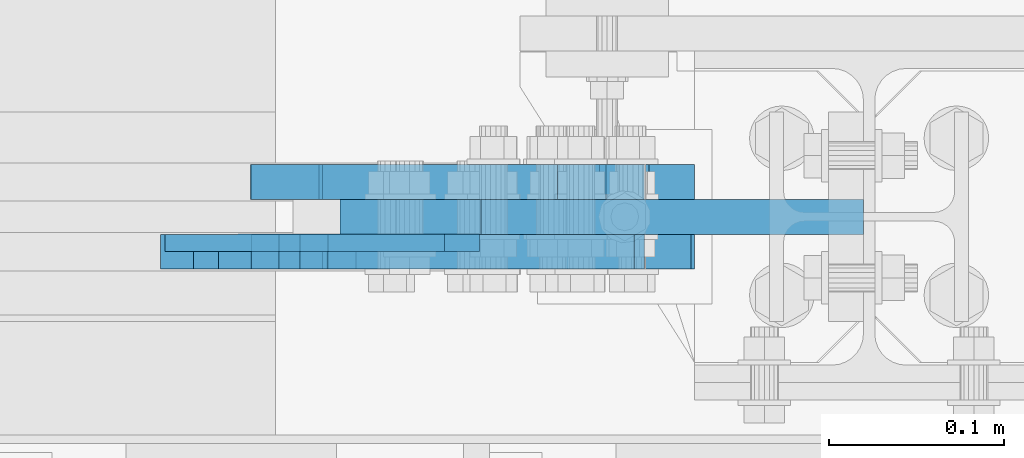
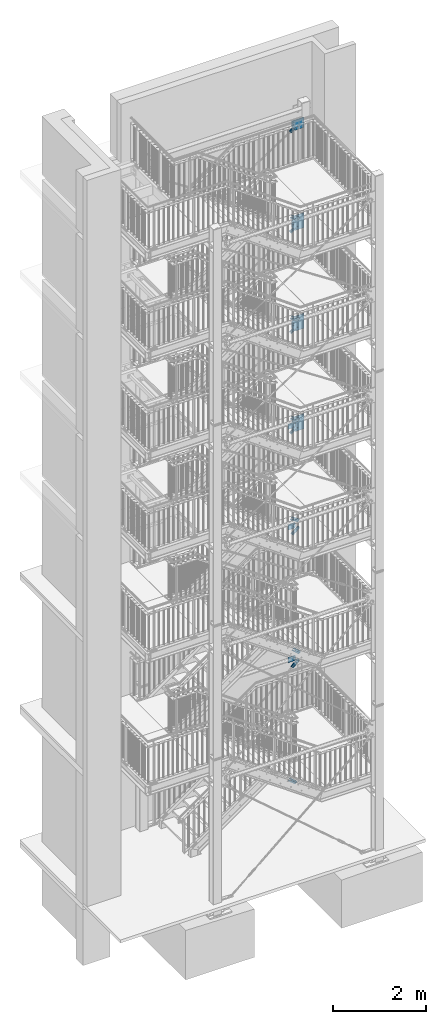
# One storey, part 214 of 831: 19 plates, 59 openings.
"""IFC2X3 building model written with IfcOpenShell, lengths in millimetres."""

from ifc_helpers import new_model, entity, si_unit, converted_unit, frame, frame_2d, origin, origin_with_axes, place, context, project, spatial, polyline, circle, outline, extrude, material, layer, layer_set, element, save


model = new_model("IFC2X3")

# Units and contexts
model_context = context("Model", 3, precision=1e-09, world=origin_with_axes())
ifc_project = project(units=[si_unit("LENGTHUNIT", "METRE", prefix="MILLI"), si_unit("AREAUNIT", "SQUARE_METRE"), si_unit("VOLUMEUNIT", "CUBIC_METRE"), converted_unit("PLANEANGLEUNIT", "DEGREE", entity("IfcPlaneAngleMeasure", 0.01745329), si_unit("PLANEANGLEUNIT", "RADIAN"), dimensions=[0, 0, 0, 0, 0, 0, 0])], contexts=[model_context])

# Site, building, storey
site_placement = place(None, origin_with_axes())
site = spatial("IfcSite", under=ifc_project, at=site_placement, Name="Site", CompositionType="ELEMENT")
building_placement = place(site_placement, origin_with_axes())
building = spatial("IfcBuilding", under=site, at=building_placement, Name="Struktur 1", CompositionType="ELEMENT")
storey_placement = place(building_placement, origin_with_axes())
storey = spatial("IfcBuildingStorey", under=building, at=storey_placement, Name="Default Storey", CompositionType="ELEMENT", Elevation=0.0)

# Plate, openings
ifc_material = material(Name="S235JR")
ifc_layer_1 = layer(ifc_material, 20.0)
ifc_layer_set_1 = layer_set([ifc_layer_1], Name="S235JR")
plate_1_placement = place(None, frame((8863.463402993, 7526.736971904, 9810.428402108), z_axis=(0.0, 1.0, 0.0), x_axis=(0.0, 0.0, -1.0)))
plate_1 = element("IfcPlate", 1, at=plate_1_placement, inside=storey, material=ifc_layer_set_1, Name="-", ObjectType="-", context=model_context, shape_type="SweptSolid", body=[
    extrude(outline(polyline([(0.0, 0.0), (386.856811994, 0.0), (386.856811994, 219.202103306), (263.428405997, 300.0), (123.428405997, 300.0), (0.0, 219.202103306), (0.0, 0.0)])), origin_with_axes(), (0.0, 0.0, -1.0), 20.0),
])
opening_1_placement = place(plate_1_placement, frame((193.428405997, 260.0, 0.5), z_axis=(0.0, 0.0, -1.0), x_axis=(0.0, -1.0, 0.0)))
element("IfcOpeningElement", 2, at=opening_1_placement, cuts=plate_1, ObjectType="Opening", context=model_context, shape_type="SweptSolid", body=[
    extrude(circle(Radius=9.001, at=frame_2d((0.0, 30.0), x_axis=(1.0, 0.0))), origin(), (0.0, 0.0, 1.0), 21.0),
])
opening_2_placement = place(plate_1_placement, frame((193.428405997, 260.0, 0.5), z_axis=(0.0, 0.0, -1.0), x_axis=(0.0, -1.0, 0.0)))
element("IfcOpeningElement", 3, at=opening_2_placement, cuts=plate_1, ObjectType="Opening", context=model_context, shape_type="SweptSolid", body=[
    extrude(circle(Radius=9.001, at=frame_2d((0.0, -30.0), x_axis=(1.0, 0.0))), origin(), (0.0, 0.0, 1.0), 21.0),
])
opening_3_placement = place(plate_1_placement, frame((318.119575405, 186.723853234, 0.5), z_axis=(0.0, 0.0, -1.0), x_axis=(0.548722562, 0.836004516, 0.0)))
element("IfcOpeningElement", 4, at=opening_3_placement, cuts=plate_1, ObjectType="Opening", context=model_context, shape_type="SweptSolid", body=[
    extrude(circle(Radius=9.001, at=frame_2d((30.0, 0.0), x_axis=(1.0, 0.0))), origin(), (0.0, 0.0, 1.0), 21.0),
])
opening_4_placement = place(plate_1_placement, frame((318.119575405, 186.723853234, 0.5), z_axis=(0.0, 0.0, -1.0), x_axis=(0.548722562, 0.836004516, 0.0)))
element("IfcOpeningElement", 5, at=opening_4_placement, cuts=plate_1, ObjectType="Opening", context=model_context, shape_type="SweptSolid", body=[
    extrude(circle(Radius=9.001, at=frame_2d((-30.0, 0.0), x_axis=(1.0, 0.0))), origin(), (0.0, 0.0, 1.0), 21.0),
])
opening_5_placement = place(plate_1_placement, frame((57.480828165, 204.267999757, 0.5), z_axis=(0.0, 0.0, 1.0), x_axis=(1.0, 0.0, 0.0)))
element("IfcOpeningElement", 6, at=opening_5_placement, cuts=plate_1, ObjectType="Opening", context=model_context, shape_type="SweptSolid", body=[
    extrude(circle(Radius=9.001, at=frame_2d((-4.932467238, 7.529194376), x_axis=(1.0, 0.0))), origin(), (0.0, 0.0, -1.0), 21.0),
])
opening_6_placement = place(plate_1_placement, frame((90.360289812, 154.078947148, 0.5), z_axis=(0.0, 0.0, 1.0), x_axis=(1.0, 0.0, 0.0)))
element("IfcOpeningElement", 7, at=opening_6_placement, cuts=plate_1, ObjectType="Opening", context=model_context, shape_type="SweptSolid", body=[
    extrude(circle(Radius=9.001, at=frame_2d((-4.932467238, 7.529194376), x_axis=(1.0, 0.0))), origin(), (0.0, 0.0, -1.0), 21.0),
])

plate_2_placement = place(None, frame((8863.463402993, 7526.736971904, 12437.428402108), z_axis=(0.0, 1.0, 0.0), x_axis=(0.0, 0.0, -1.0)))
plate_2 = element("IfcPlate", 8, at=plate_2_placement, inside=storey, material=ifc_layer_set_1, Name="-", ObjectType="-", context=model_context, shape_type="SweptSolid", body=[
    extrude(outline(polyline([(0.0, 0.0), (386.856811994, 0.0), (386.856811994, 219.202103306), (263.428405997, 300.0), (123.428405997, 300.0), (0.0, 219.202103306), (0.0, 0.0)])), origin_with_axes(), (0.0, 0.0, -1.0), 20.0),
])
opening_7_placement = place(plate_2_placement, frame((193.428405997, 260.000000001, 0.5), z_axis=(0.0, 0.0, -1.0), x_axis=(0.0, -1.0, 0.0)))
element("IfcOpeningElement", 9, at=opening_7_placement, cuts=plate_2, ObjectType="Opening", context=model_context, shape_type="SweptSolid", body=[
    extrude(circle(Radius=9.001, at=frame_2d((0.0, 30.0), x_axis=(1.0, 0.0))), origin(), (0.0, 0.0, 1.0), 21.0),
])
opening_8_placement = place(plate_2_placement, frame((193.428405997, 260.000000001, 0.5), z_axis=(0.0, 0.0, -1.0), x_axis=(0.0, -1.0, 0.0)))
element("IfcOpeningElement", 10, at=opening_8_placement, cuts=plate_2, ObjectType="Opening", context=model_context, shape_type="SweptSolid", body=[
    extrude(circle(Radius=9.001, at=frame_2d((0.0, -30.0), x_axis=(1.0, 0.0))), origin(), (0.0, 0.0, 1.0), 21.0),
])
opening_9_placement = place(plate_2_placement, frame((57.191453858, 204.078340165, 0.5), z_axis=(0.0, 0.0, 1.0), x_axis=(1.0, 0.0, 0.0)))
element("IfcOpeningElement", 11, at=opening_9_placement, cuts=plate_2, ObjectType="Opening", context=model_context, shape_type="SweptSolid", body=[
    extrude(circle(Radius=9.001, at=frame_2d((-4.942962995, 7.522308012), x_axis=(1.0, 0.0))), origin(), (0.0, 0.0, -1.0), 21.0),
])
opening_10_placement = place(plate_2_placement, frame((90.140879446, 153.935191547, 0.5), z_axis=(0.0, 0.0, 1.0), x_axis=(1.0, 0.0, 0.0)))
element("IfcOpeningElement", 12, at=opening_10_placement, cuts=plate_2, ObjectType="Opening", context=model_context, shape_type="SweptSolid", body=[
    extrude(circle(Radius=9.001, at=frame_2d((-4.942962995, 7.522308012), x_axis=(1.0, 0.0))), origin(), (0.0, 0.0, -1.0), 21.0),
])
opening_11_placement = place(plate_2_placement, frame((317.95335929, 186.83257031, 0.5), z_axis=(0.0, 0.0, -1.0), x_axis=(0.54798027, 0.836491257, 0.0)))
element("IfcOpeningElement", 13, at=opening_11_placement, cuts=plate_2, ObjectType="Opening", context=model_context, shape_type="SweptSolid", body=[
    extrude(circle(Radius=9.001, at=frame_2d((30.0, 0.0), x_axis=(1.0, 0.0))), origin(), (0.0, 0.0, 1.0), 21.0),
])
opening_12_placement = place(plate_2_placement, frame((317.95335929, 186.83257031, 0.5), z_axis=(0.0, 0.0, -1.0), x_axis=(0.54798027, 0.836491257, 0.0)))
element("IfcOpeningElement", 14, at=opening_12_placement, cuts=plate_2, ObjectType="Opening", context=model_context, shape_type="SweptSolid", body=[
    extrude(circle(Radius=9.001, at=frame_2d((-30.0, 0.0), x_axis=(1.0, 0.0))), origin(), (0.0, 0.0, 1.0), 21.0),
])

plate_3_placement = place(None, frame((8863.463402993, 7526.736971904, 15072.428402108), z_axis=(0.0, 1.0, 0.0), x_axis=(0.0, 0.0, -1.0)))
plate_3 = element("IfcPlate", 15, at=plate_3_placement, inside=storey, material=ifc_layer_set_1, Name="-", ObjectType="-", context=model_context, shape_type="SweptSolid", body=[
    extrude(outline(polyline([(0.0, 0.0), (386.856811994, 0.0), (386.856811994, 219.202103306), (263.428405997, 300.0), (123.428405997, 300.0), (0.0, 219.202103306), (0.0, 0.0)])), origin_with_axes(), (0.0, 0.0, -1.0), 20.0),
])
opening_13_placement = place(plate_3_placement, frame((193.428405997, 260.0, 0.5), z_axis=(0.0, 0.0, -1.0), x_axis=(0.0, -1.0, 0.0)))
element("IfcOpeningElement", 16, at=opening_13_placement, cuts=plate_3, ObjectType="Opening", context=model_context, shape_type="SweptSolid", body=[
    extrude(circle(Radius=9.001, at=frame_2d((0.0, 30.0), x_axis=(1.0, 0.0))), origin(), (0.0, 0.0, 1.0), 21.0),
])
opening_14_placement = place(plate_3_placement, frame((193.428405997, 260.0, 0.5), z_axis=(0.0, 0.0, -1.0), x_axis=(0.0, -1.0, 0.0)))
element("IfcOpeningElement", 17, at=opening_14_placement, cuts=plate_3, ObjectType="Opening", context=model_context, shape_type="SweptSolid", body=[
    extrude(circle(Radius=9.001, at=frame_2d((0.0, -30.0), x_axis=(1.0, 0.0))), origin(), (0.0, 0.0, 1.0), 21.0),
])
opening_15_placement = place(plate_3_placement, frame((57.734426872, 204.434295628, 0.5), z_axis=(0.0, 0.0, 1.0), x_axis=(1.0, 0.0, 0.0)))
element("IfcOpeningElement", 18, at=opening_15_placement, cuts=plate_3, ObjectType="Opening", context=model_context, shape_type="SweptSolid", body=[
    extrude(circle(Radius=9.001, at=frame_2d((-4.923259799, 7.535218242), x_axis=(1.0, 0.0))), origin(), (0.0, 0.0, -1.0), 21.0),
])
opening_16_placement = place(plate_3_placement, frame((90.552512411, 154.205088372, 0.5), z_axis=(0.0, 0.0, 1.0), x_axis=(1.0, 0.0, 0.0)))
element("IfcOpeningElement", 19, at=opening_16_placement, cuts=plate_3, ObjectType="Opening", context=model_context, shape_type="SweptSolid", body=[
    extrude(circle(Radius=9.001, at=frame_2d((-4.923259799, 7.535218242), x_axis=(1.0, 0.0))), origin(), (0.0, 0.0, -1.0), 21.0),
])
opening_17_placement = place(plate_3_placement, frame((318.218924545, 186.658910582, 0.5), z_axis=(0.0, 0.0, -1.0), x_axis=(0.549157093, 0.835719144, 0.0)))
element("IfcOpeningElement", 20, at=opening_17_placement, cuts=plate_3, ObjectType="Opening", context=model_context, shape_type="SweptSolid", body=[
    extrude(circle(Radius=9.001, at=frame_2d((30.0, 0.0), x_axis=(1.0, 0.0))), origin(), (0.0, 0.0, 1.0), 21.0),
])
opening_18_placement = place(plate_3_placement, frame((318.218924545, 186.658910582, 0.5), z_axis=(0.0, 0.0, -1.0), x_axis=(0.549157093, 0.835719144, 0.0)))
element("IfcOpeningElement", 21, at=opening_18_placement, cuts=plate_3, ObjectType="Opening", context=model_context, shape_type="SweptSolid", body=[
    extrude(circle(Radius=9.001, at=frame_2d((-30.0, 0.0), x_axis=(1.0, 0.0))), origin(), (0.0, 0.0, 1.0), 21.0),
])

plate_4_placement = place(None, frame((8563.463402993, 7526.736971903, 17582.999996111), z_axis=(0.0, 1.0, 0.0), x_axis=(1.0, 0.0, 0.0)))
plate_4 = element("IfcPlate", 22, at=plate_4_placement, inside=storey, material=ifc_layer_set_1, Name="-", ObjectType="-", context=model_context, shape_type="SweptSolid", body=[
    extrude(outline(polyline([(0.0, -110.000000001), (300.0, -110.000000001), (300.0, 277.428405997), (80.797896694, 277.428405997), (0.0, 154.0), (0.0, -110.000000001)])), origin_with_axes(), (0.0, 0.0, -1.0), 20.0),
])
opening_19_placement = place(plate_4_placement, frame((63.904513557, -490.388845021, 0.1), z_axis=(0.0, 0.0, 1.0), x_axis=(0.790386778, 0.612608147, 0.0)))
element("IfcOpeningElement", 23, at=opening_19_placement, cuts=plate_4, ObjectType="Opening", context=model_context, shape_type="SweptSolid", body=[
    extrude(outline(polyline([(0.0, 0.0), (816.820415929, 0.0), (166.904816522, 503.732605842), (0.0, 0.0)])), origin(), (0.0, 0.0, -1.0), 20.2),
])
opening_20_placement = place(plate_4_placement, frame((40.0, 84.0, 0.5), z_axis=(0.0, 0.0, -1.0), x_axis=(1.0, 0.0, 0.0)))
element("IfcOpeningElement", 24, at=opening_20_placement, cuts=plate_4, ObjectType="Opening", context=model_context, shape_type="SweptSolid", body=[
    extrude(circle(Radius=9.001, at=frame_2d((0.0, 30.0), x_axis=(1.0, 0.0))), origin(), (0.0, 0.0, 1.0), 21.0),
])
opening_21_placement = place(plate_4_placement, frame((40.0, 84.0, 0.5), z_axis=(0.0, 0.0, -1.0), x_axis=(1.0, 0.0, 0.0)))
element("IfcOpeningElement", 25, at=opening_21_placement, cuts=plate_4, ObjectType="Opening", context=model_context, shape_type="SweptSolid", body=[
    extrude(circle(Radius=9.001, at=frame_2d((0.0, -30.0), x_axis=(1.0, 0.0))), origin(), (0.0, 0.0, 1.0), 21.0),
])
opening_22_placement = place(plate_4_placement, frame((113.015549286, 208.292833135, 0.5), z_axis=(0.0, 0.0, -1.0), x_axis=(-0.837153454, 0.546968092, 0.0)))
element("IfcOpeningElement", 26, at=opening_22_placement, cuts=plate_4, ObjectType="Opening", context=model_context, shape_type="SweptSolid", body=[
    extrude(circle(Radius=9.001, at=frame_2d((30.0, 0.0), x_axis=(1.0, 0.0))), origin(), (0.0, 0.0, 1.0), 21.0),
])
opening_23_placement = place(plate_4_placement, frame((113.015549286, 208.292833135, 0.5), z_axis=(0.0, 0.0, -1.0), x_axis=(-0.837153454, 0.546968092, 0.0)))
element("IfcOpeningElement", 27, at=opening_23_placement, cuts=plate_4, ObjectType="Opening", context=model_context, shape_type="SweptSolid", body=[
    extrude(circle(Radius=9.001, at=frame_2d((-30.0, 0.0), x_axis=(1.0, 0.0))), origin(), (0.0, 0.0, 1.0), 21.0),
])

plate_5_placement = place(None, frame((8584.803726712, 7546.736971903, 3254.8042374), z_axis=(0.0, -1.0, 0.0), x_axis=(0.652408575, 0.0, -0.757867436)))
plate_5 = element("IfcPlate", 28, at=plate_5_placement, inside=storey, material=ifc_layer_set_1, Name="-", ObjectType="-", context=model_context, shape_type="SweptSolid", body=[
    extrude(outline(polyline([(0.0, 0.0), (29.0, 0.0), (29.0, 210.0), (9.0, 230.0), (-31.0, 230.0), (-51.0, 210.0), (-51.0, 0.0), (-22.0, 0.0), (-22.0, 80.0), (0.0, 80.0), (0.0, 0.0)])), origin_with_axes(), (0.0, 0.0, 1.0), 20.0),
])
opening_24_placement = place(plate_5_placement, frame((-11.000000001, 170.0, -0.5), z_axis=(0.0, 0.0, 1.0), x_axis=(0.0, -1.0, 0.0)))
element("IfcOpeningElement", 29, at=opening_24_placement, cuts=plate_5, ObjectType="Opening", context=model_context, shape_type="SweptSolid", body=[
    extrude(circle(Radius=9.001, at=frame_2d((30.0, 0.0), x_axis=(1.0, 0.0))), origin(), (0.0, 0.0, 1.0), 21.0),
])
opening_25_placement = place(plate_5_placement, frame((-11.000000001, 170.0, -0.5), z_axis=(0.0, 0.0, 1.0), x_axis=(0.0, -1.0, 0.0)))
element("IfcOpeningElement", 30, at=opening_25_placement, cuts=plate_5, ObjectType="Opening", context=model_context, shape_type="SweptSolid", body=[
    extrude(circle(Radius=9.001, at=frame_2d((-30.0, 0.0), x_axis=(1.0, 0.0))), origin(), (0.0, 0.0, 1.0), 21.0),
])

plate_6_placement = place(None, frame((8540.654730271, 7546.736971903, 9389.829941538), z_axis=(0.0, -1.0, 0.0), x_axis=(0.548722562, 0.0, -0.836004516)))
plate_6 = element("IfcPlate", 31, at=plate_6_placement, inside=storey, material=ifc_layer_set_1, Name="-", ObjectType="-", context=model_context, shape_type="SweptSolid", body=[
    extrude(outline(polyline([(0.0, 0.0), (29.0, 0.0), (29.0, 210.0), (9.0, 230.0), (-31.0, 230.0), (-51.0, 210.0), (-51.0, 0.0), (-22.0, 0.0), (-22.0, 80.0), (0.0, 80.0), (0.0, 0.0)])), origin_with_axes(), (0.0, 0.0, 1.0), 20.0),
])
opening_26_placement = place(plate_6_placement, frame((-11.0, 170.0, -0.5), z_axis=(0.0, 0.0, 1.0), x_axis=(0.0, -1.0, 0.0)))
element("IfcOpeningElement", 32, at=opening_26_placement, cuts=plate_6, ObjectType="Opening", context=model_context, shape_type="SweptSolid", body=[
    extrude(circle(Radius=9.001, at=frame_2d((30.0, 0.0), x_axis=(1.0, 0.0))), origin(), (0.0, 0.0, 1.0), 21.0),
])
opening_27_placement = place(plate_6_placement, frame((-11.0, 170.0, -0.5), z_axis=(0.0, 0.0, 1.0), x_axis=(0.0, -1.0, 0.0)))
element("IfcOpeningElement", 33, at=opening_27_placement, cuts=plate_6, ObjectType="Opening", context=model_context, shape_type="SweptSolid", body=[
    extrude(circle(Radius=9.001, at=frame_2d((-30.0, 0.0), x_axis=(1.0, 0.0))), origin(), (0.0, 0.0, 1.0), 21.0),
])

plate_7_placement = place(None, frame((8586.910619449, 7546.736971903, 6728.115001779), z_axis=(0.0, -1.0, 0.0), x_axis=(0.654679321, 0.0, -0.755906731)))
plate_7 = element("IfcPlate", 34, at=plate_7_placement, inside=storey, material=ifc_layer_set_1, Name="-", ObjectType="-", context=model_context, shape_type="SweptSolid", body=[
    extrude(outline(polyline([(0.0, 0.0), (29.0, 0.0), (29.0, 210.0), (9.0, 230.0), (-31.0, 230.0), (-51.0, 210.0), (-51.0, 0.0), (-22.0, 0.0), (-22.0, 80.0), (0.0, 80.0), (0.0, 0.0)])), origin_with_axes(), (0.0, 0.0, 1.0), 20.0),
])
opening_28_placement = place(plate_7_placement, frame((-11.0, 170.0, -0.5), z_axis=(0.0, 0.0, 1.0), x_axis=(0.0, -1.0, 0.0)))
element("IfcOpeningElement", 35, at=opening_28_placement, cuts=plate_7, ObjectType="Opening", context=model_context, shape_type="SweptSolid", body=[
    extrude(circle(Radius=9.001, at=frame_2d((30.0, 0.0), x_axis=(1.0, 0.0))), origin(), (0.0, 0.0, 1.0), 21.0),
])
opening_29_placement = place(plate_7_placement, frame((-11.0, 170.0, -0.5), z_axis=(0.0, 0.0, 1.0), x_axis=(0.0, -1.0, 0.0)))
element("IfcOpeningElement", 36, at=opening_29_placement, cuts=plate_7, ObjectType="Opening", context=model_context, shape_type="SweptSolid", body=[
    extrude(circle(Radius=9.001, at=frame_2d((-30.0, 0.0), x_axis=(1.0, 0.0))), origin(), (0.0, 0.0, 1.0), 21.0),
])

plate_8_placement = place(None, frame((8494.057714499, 7506.736971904, 395.314271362), z_axis=(0.0, 1.0, 0.0), x_axis=(0.652408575, 0.0, 0.757867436)))
plate_8 = element("IfcPlate", 37, at=plate_8_placement, inside=storey, material=ifc_layer_set_1, Name="-", ObjectType="-", context=model_context, shape_type="SweptSolid", body=[
    extrude(outline(polyline([(0.0, 0.0), (29.0, 0.0), (29.0, 210.0), (9.0, 230.0), (-31.0, 230.0), (-51.0, 210.0), (-51.0, 0.0), (-22.0, 0.0), (-22.0, 80.0), (0.0, 80.0), (0.0, 0.0)])), origin_with_axes(), (0.0, 0.0, -1.0), 20.0),
])
opening_30_placement = place(plate_8_placement, frame((-11.000000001, 149.001, 0.5), z_axis=(0.0, 0.0, 1.0), x_axis=(1.0, 0.0, 0.0)))
element("IfcOpeningElement", 38, at=opening_30_placement, cuts=plate_8, ObjectType="Opening", context=model_context, shape_type="SweptSolid", body=[
    extrude(circle(Radius=9.001, at=frame_2d((0.0, -9.001), x_axis=(1.0, 0.0))), origin(), (0.0, 0.0, -1.0), 21.0),
])
opening_31_placement = place(plate_8_placement, frame((-11.000000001, 209.001, 0.5), z_axis=(0.0, 0.0, 1.0), x_axis=(1.0, 0.0, 0.0)))
element("IfcOpeningElement", 39, at=opening_31_placement, cuts=plate_8, ObjectType="Opening", context=model_context, shape_type="SweptSolid", body=[
    extrude(circle(Radius=9.001, at=frame_2d((0.0, -9.001), x_axis=(1.0, 0.0))), origin(), (0.0, 0.0, -1.0), 21.0),
])

plate_9_placement = place(None, frame((8587.050661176, 7506.736971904, 3768.76370292), z_axis=(0.0, 1.0, 0.0), x_axis=(0.654679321, 0.0, 0.755906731)))
plate_9 = element("IfcPlate", 40, at=plate_9_placement, inside=storey, material=ifc_layer_set_1, Name="-", ObjectType="-", context=model_context, shape_type="SweptSolid", body=[
    extrude(outline(polyline([(0.0, 0.0), (29.0, 0.0), (29.0, 210.0), (9.0, 230.0), (-31.0, 230.0), (-51.0, 210.0), (-51.0, 0.0), (-22.0, 0.0), (-22.0, 80.0), (0.0, 80.0), (0.0, 0.0)])), origin_with_axes(), (0.0, 0.0, -1.0), 20.0),
])
opening_32_placement = place(plate_9_placement, frame((-11.0, 149.001, 0.5), z_axis=(0.0, 0.0, 1.0), x_axis=(1.0, 0.0, 0.0)))
element("IfcOpeningElement", 41, at=opening_32_placement, cuts=plate_9, ObjectType="Opening", context=model_context, shape_type="SweptSolid", body=[
    extrude(circle(Radius=9.001, at=frame_2d((0.0, -9.001), x_axis=(1.0, 0.0))), origin(), (0.0, 0.0, -1.0), 21.0),
])
opening_33_placement = place(plate_9_placement, frame((-10.999999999, 209.001, 0.5), z_axis=(0.0, 0.0, 1.0), x_axis=(1.0, 0.0, 0.0)))
element("IfcOpeningElement", 42, at=opening_33_placement, cuts=plate_9, ObjectType="Opening", context=model_context, shape_type="SweptSolid", body=[
    extrude(circle(Radius=9.001, at=frame_2d((0.0, -9.001), x_axis=(1.0, 0.0))), origin(), (0.0, 0.0, -1.0), 21.0),
])

plate_10_placement = place(None, frame((8540.784171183, 7506.736971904, 7212.084413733), z_axis=(0.0, 1.0, 0.0), x_axis=(0.548720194, 0.0, 0.83600607)))
plate_10 = element("IfcPlate", 43, at=plate_10_placement, inside=storey, material=ifc_layer_set_1, Name="-", ObjectType="-", context=model_context, shape_type="SweptSolid", body=[
    extrude(outline(polyline([(0.0, 0.0), (29.0, 0.0), (29.0, 210.0), (9.0, 230.0), (-31.0, 230.0), (-51.0, 210.0), (-51.0, 0.0), (-22.0, 0.0), (-22.0, 80.0), (0.0, 80.0), (0.0, 0.0)])), origin_with_axes(), (0.0, 0.0, -1.0), 20.0),
])
opening_34_placement = place(plate_10_placement, frame((-11.0, 149.001, 0.5), z_axis=(0.0, 0.0, 1.0), x_axis=(1.0, 0.0, 0.0)))
element("IfcOpeningElement", 44, at=opening_34_placement, cuts=plate_10, ObjectType="Opening", context=model_context, shape_type="SweptSolid", body=[
    extrude(circle(Radius=9.001, at=frame_2d((0.0, -9.001), x_axis=(1.0, 0.0))), origin(), (0.0, 0.0, -1.0), 21.0),
])
opening_35_placement = place(plate_10_placement, frame((-11.0, 209.001, 0.5), z_axis=(0.0, 0.0, 1.0), x_axis=(1.0, 0.0, 0.0)))
element("IfcOpeningElement", 45, at=opening_35_placement, cuts=plate_10, ObjectType="Opening", context=model_context, shape_type="SweptSolid", body=[
    extrude(circle(Radius=9.001, at=frame_2d((0.0, -9.001), x_axis=(1.0, 0.0))), origin(), (0.0, 0.0, -1.0), 21.0),
])

plate_11_placement = place(None, frame((8540.455101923, 7546.736971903, 12017.116993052), z_axis=(0.0, -1.0, 0.0), x_axis=(0.54798027, 0.0, -0.836491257)))
plate_11 = element("IfcPlate", 46, at=plate_11_placement, inside=storey, material=ifc_layer_set_1, Name="-", ObjectType="-", context=model_context, shape_type="SweptSolid", body=[
    extrude(outline(polyline([(0.0, 0.0), (29.0, 0.0), (29.0, 210.0), (9.0, 230.0), (-31.0, 230.0), (-51.0, 210.0), (-51.0, 0.0), (-22.0, 0.0), (-22.0, 80.0), (0.0, 80.0), (0.0, 0.0)])), origin_with_axes(), (0.0, 0.0, 1.0), 20.0),
])
opening_36_placement = place(plate_11_placement, frame((-11.0, 170.0, -0.5), z_axis=(0.0, 0.0, 1.0), x_axis=(0.0, -1.0, 0.0)))
element("IfcOpeningElement", 47, at=opening_36_placement, cuts=plate_11, ObjectType="Opening", context=model_context, shape_type="SweptSolid", body=[
    extrude(circle(Radius=9.001, at=frame_2d((30.0, 0.0), x_axis=(1.0, 0.0))), origin(), (0.0, 0.0, 1.0), 21.0),
])
opening_37_placement = place(plate_11_placement, frame((-11.0, 170.0, -0.5), z_axis=(0.0, 0.0, 1.0), x_axis=(0.0, -1.0, 0.0)))
element("IfcOpeningElement", 48, at=opening_37_placement, cuts=plate_11, ObjectType="Opening", context=model_context, shape_type="SweptSolid", body=[
    extrude(circle(Radius=9.001, at=frame_2d((-30.0, 0.0), x_axis=(1.0, 0.0))), origin(), (0.0, 0.0, 1.0), 21.0),
])

plate_12_placement = place(None, frame((8540.586320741, 7506.736971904, 9843.800111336), z_axis=(0.0, 1.0, 0.0), x_axis=(0.547991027, 0.0, 0.83648421)))
plate_12 = element("IfcPlate", 49, at=plate_12_placement, inside=storey, material=ifc_layer_set_1, Name="-", ObjectType="-", context=model_context, shape_type="SweptSolid", body=[
    extrude(outline(polyline([(0.0, 0.0), (29.0, 0.0), (29.0, 210.0), (9.0, 230.0), (-31.0, 230.0), (-51.0, 210.0), (-51.0, 0.0), (-22.0, 0.0), (-22.0, 80.0), (0.0, 80.0), (0.0, 0.0)])), origin_with_axes(), (0.0, 0.0, -1.0), 20.0),
])
opening_38_placement = place(plate_12_placement, frame((-11.0, 149.001, 0.5), z_axis=(0.0, 0.0, 1.0), x_axis=(1.0, 0.0, 0.0)))
element("IfcOpeningElement", 50, at=opening_38_placement, cuts=plate_12, ObjectType="Opening", context=model_context, shape_type="SweptSolid", body=[
    extrude(circle(Radius=9.001, at=frame_2d((0.0, -9.001), x_axis=(1.0, 0.0))), origin(), (0.0, 0.0, -1.0), 21.0),
])
opening_39_placement = place(plate_12_placement, frame((-11.0, 209.001, 0.5), z_axis=(0.0, 0.0, 1.0), x_axis=(1.0, 0.0, 0.0)))
element("IfcOpeningElement", 51, at=opening_39_placement, cuts=plate_12, ObjectType="Opening", context=model_context, shape_type="SweptSolid", body=[
    extrude(circle(Radius=9.001, at=frame_2d((0.0, -9.001), x_axis=(1.0, 0.0))), origin(), (0.0, 0.0, -1.0), 21.0),
])

plate_13_placement = place(None, frame((8540.772966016, 7546.736971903, 14651.659861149), z_axis=(0.0, -1.0, 0.0), x_axis=(0.549157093, 0.0, -0.835719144)))
plate_13 = element("IfcPlate", 52, at=plate_13_placement, inside=storey, material=ifc_layer_set_1, Name="-", ObjectType="-", context=model_context, shape_type="SweptSolid", body=[
    extrude(outline(polyline([(0.0, 0.0), (29.0, 0.0), (29.0, 210.0), (9.0, 230.0), (-31.0, 230.0), (-51.0, 210.0), (-51.0, 0.0), (-22.0, 0.0), (-22.0, 80.0), (0.0, 80.0), (0.0, 0.0)])), origin_with_axes(), (0.0, 0.0, 1.0), 20.0),
])
opening_40_placement = place(plate_13_placement, frame((-11.0, 170.0, -0.5), z_axis=(0.0, 0.0, 1.0), x_axis=(0.0, -1.0, 0.0)))
element("IfcOpeningElement", 53, at=opening_40_placement, cuts=plate_13, ObjectType="Opening", context=model_context, shape_type="SweptSolid", body=[
    extrude(circle(Radius=9.001, at=frame_2d((30.0, 0.0), x_axis=(1.0, 0.0))), origin(), (0.0, 0.0, 1.0), 21.0),
])
opening_41_placement = place(plate_13_placement, frame((-11.0, 170.0, -0.5), z_axis=(0.0, 0.0, 1.0), x_axis=(0.0, -1.0, 0.0)))
element("IfcOpeningElement", 54, at=opening_41_placement, cuts=plate_13, ObjectType="Opening", context=model_context, shape_type="SweptSolid", body=[
    extrude(circle(Radius=9.001, at=frame_2d((-30.0, 0.0), x_axis=(1.0, 0.0))), origin(), (0.0, 0.0, 1.0), 21.0),
])

plate_14_placement = place(None, frame((8540.90280273, 7506.736971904, 12471.254814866), z_axis=(0.0, 1.0, 0.0), x_axis=(0.549157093, 0.0, 0.835719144)))
plate_14 = element("IfcPlate", 55, at=plate_14_placement, inside=storey, material=ifc_layer_set_1, Name="-", ObjectType="-", context=model_context, shape_type="SweptSolid", body=[
    extrude(outline(polyline([(0.0, 0.0), (29.0, 0.0), (29.0, 210.0), (9.0, 230.0), (-31.0, 230.0), (-51.0, 210.0), (-51.0, 0.0), (-22.0, 0.0), (-22.0, 80.0), (0.0, 80.0), (0.0, 0.0)])), origin_with_axes(), (0.0, 0.0, -1.0), 20.0),
])
opening_42_placement = place(plate_14_placement, frame((-11.0, 149.001, 0.5), z_axis=(0.0, 0.0, 1.0), x_axis=(1.0, 0.0, 0.0)))
element("IfcOpeningElement", 56, at=opening_42_placement, cuts=plate_14, ObjectType="Opening", context=model_context, shape_type="SweptSolid", body=[
    extrude(circle(Radius=9.001, at=frame_2d((0.0, -9.001), x_axis=(1.0, 0.0))), origin(), (0.0, 0.0, -1.0), 21.0),
])
opening_43_placement = place(plate_14_placement, frame((-11.0, 209.001, 0.5), z_axis=(0.0, 0.0, 1.0), x_axis=(1.0, 0.0, 0.0)))
element("IfcOpeningElement", 57, at=opening_43_placement, cuts=plate_14, ObjectType="Opening", context=model_context, shape_type="SweptSolid", body=[
    extrude(circle(Radius=9.001, at=frame_2d((0.0, -9.001), x_axis=(1.0, 0.0))), origin(), (0.0, 0.0, -1.0), 21.0),
])

plate_15_placement = place(None, frame((8540.179514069, 7546.736971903, 17272.513899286), z_axis=(0.0, -1.0, 0.0), x_axis=(0.546968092, 0.0, -0.837153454)))
plate_15 = element("IfcPlate", 58, at=plate_15_placement, inside=storey, material=ifc_layer_set_1, Name="-", ObjectType="-", context=model_context, shape_type="SweptSolid", body=[
    extrude(outline(polyline([(0.0, 0.0), (29.0, 0.0), (29.0, 210.0), (9.0, 230.0), (-31.0, 230.0), (-51.0, 210.0), (-51.0, 0.0), (-22.0, 0.0), (-22.0, 80.0), (0.0, 80.0), (0.0, 0.0)])), origin_with_axes(), (0.0, 0.0, 1.0), 20.0),
])
opening_44_placement = place(plate_15_placement, frame((-11.000000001, 170.0, -0.5), z_axis=(0.0, 0.0, 1.0), x_axis=(0.0, -1.0, 0.0)))
element("IfcOpeningElement", 59, at=opening_44_placement, cuts=plate_15, ObjectType="Opening", context=model_context, shape_type="SweptSolid", body=[
    extrude(circle(Radius=9.001, at=frame_2d((30.0, 0.0), x_axis=(1.0, 0.0))), origin(), (0.0, 0.0, 1.0), 21.0),
])
opening_45_placement = place(plate_15_placement, frame((-11.000000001, 170.0, -0.5), z_axis=(0.0, 0.0, 1.0), x_axis=(0.0, -1.0, 0.0)))
element("IfcOpeningElement", 60, at=opening_45_placement, cuts=plate_15, ObjectType="Opening", context=model_context, shape_type="SweptSolid", body=[
    extrude(circle(Radius=9.001, at=frame_2d((-30.0, 0.0), x_axis=(1.0, 0.0))), origin(), (0.0, 0.0, 1.0), 21.0),
])

plate_16_placement = place(None, frame((8540.309054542, 7506.736971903, 15105.401455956), z_axis=(0.0, 1.0, 0.0), x_axis=(0.546968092, 0.0, 0.837153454)))
plate_16 = element("IfcPlate", 61, at=plate_16_placement, inside=storey, material=ifc_layer_set_1, Name="-", ObjectType="-", context=model_context, shape_type="SweptSolid", body=[
    extrude(outline(polyline([(0.0, 0.0), (29.0, 0.0), (29.0, 210.0), (9.0, 230.0), (-31.0, 230.0), (-51.0, 210.0), (-51.0, 0.0), (-22.0, 0.0), (-22.0, 80.0), (0.0, 80.0), (0.0, 0.0)])), origin_with_axes(), (0.0, 0.0, -1.0), 20.0),
])
opening_46_placement = place(plate_16_placement, frame((-11.0, 149.001, 0.5), z_axis=(0.0, 0.0, 1.0), x_axis=(1.0, 0.0, 0.0)))
element("IfcOpeningElement", 62, at=opening_46_placement, cuts=plate_16, ObjectType="Opening", context=model_context, shape_type="SweptSolid", body=[
    extrude(circle(Radius=9.001, at=frame_2d((0.0, -9.001), x_axis=(1.0, 0.0))), origin(), (0.0, 0.0, -1.0), 21.0),
])
opening_47_placement = place(plate_16_placement, frame((-11.0, 209.001, 0.5), z_axis=(0.0, 0.0, 1.0), x_axis=(1.0, 0.0, 0.0)))
element("IfcOpeningElement", 63, at=opening_47_placement, cuts=plate_16, ObjectType="Opening", context=model_context, shape_type="SweptSolid", body=[
    extrude(circle(Radius=9.001, at=frame_2d((0.0, -9.001), x_axis=(1.0, 0.0))), origin(), (0.0, 0.0, -1.0), 21.0),
])

ifc_layer_2 = layer(ifc_material, 10.0)
ifc_layer_set_2 = layer_set([ifc_layer_2], Name="S235JR")
plate_17_placement = place(None, frame((8553.463402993, 7506.736971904, 6984.999996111), z_axis=(0.0, -1.0, 0.0), x_axis=(1.0, 0.0, 0.0)))
plate_17 = element("IfcPlate", 64, at=plate_17_placement, inside=storey, material=ifc_layer_set_2, Name="-", ObjectType="-", context=model_context, shape_type="SweptSolid", body=[
    extrude(outline(polyline([(-90.0, -70.0), (90.0, -70.0), (90.0, 70.0), (-90.0, 70.0), (-90.0, -70.0)])), origin_with_axes(), (0.0, 0.0, 1.0), 10.0),
])
opening_48_placement = place(plate_17_placement, frame((0.0, 0.0, -0.01), z_axis=(0.0, 0.0, 1.0), x_axis=(1.0, 0.0, 0.0)))
element("IfcOpeningElement", 65, at=opening_48_placement, cuts=plate_17, ObjectType="Opening", context=model_context, shape_type="SweptSolid", body=[
    extrude(outline(polyline([(90.0, -70.0), (90.0, -50.0), (70.0, -70.0), (90.0, -70.0)])), origin(), (0.0, 0.0, 1.0), 10.02),
])
opening_49_placement = place(plate_17_placement, frame((0.0, 0.0, -0.01), z_axis=(0.0, 0.0, 1.0), x_axis=(1.0, 0.0, 0.0)))
element("IfcOpeningElement", 66, at=opening_49_placement, cuts=plate_17, ObjectType="Opening", context=model_context, shape_type="SweptSolid", body=[
    extrude(outline(polyline([(90.0, 70.0), (70.0, 70.0), (90.0, 50.0), (90.0, 70.0)])), origin(), (0.0, 0.0, 1.0), 10.02),
])
opening_50_placement = place(plate_17_placement, frame((50.0, 0.0, -0.5), z_axis=(0.0, 0.0, 1.0), x_axis=(1.0, 0.0, 0.0)))
element("IfcOpeningElement", 67, at=opening_50_placement, cuts=plate_17, ObjectType="Opening", context=model_context, shape_type="SweptSolid", body=[
    extrude(circle(Radius=9.001, at=frame_2d((0.0, 30.0), x_axis=(1.0, 0.0))), origin(), (0.0, 0.0, 1.0), 11.0),
])
opening_51_placement = place(plate_17_placement, frame((50.0, 0.0, -0.5), z_axis=(0.0, 0.0, 1.0), x_axis=(1.0, 0.0, 0.0)))
element("IfcOpeningElement", 68, at=opening_51_placement, cuts=plate_17, ObjectType="Opening", context=model_context, shape_type="SweptSolid", body=[
    extrude(circle(Radius=9.001, at=frame_2d((0.0, -30.0), x_axis=(1.0, 0.0))), origin(), (0.0, 0.0, 1.0), 11.0),
])

plate_18_placement = place(None, frame((8553.463402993, 7506.736971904, 3511.999996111), z_axis=(0.0, -1.0, 0.0), x_axis=(1.0, 0.0, 0.0)))
plate_18 = element("IfcPlate", 69, at=plate_18_placement, inside=storey, material=ifc_layer_set_2, Name="-", ObjectType="-", context=model_context, shape_type="SweptSolid", body=[
    extrude(outline(polyline([(-90.0, -70.0), (90.0, -70.0), (90.0, 70.0), (-90.0, 70.0), (-90.0, -70.0)])), origin_with_axes(), (0.0, 0.0, 1.0), 10.0),
])
opening_52_placement = place(plate_18_placement, frame((0.0, 0.0, -0.01), z_axis=(0.0, 0.0, 1.0), x_axis=(1.0, 0.0, 0.0)))
element("IfcOpeningElement", 70, at=opening_52_placement, cuts=plate_18, ObjectType="Opening", context=model_context, shape_type="SweptSolid", body=[
    extrude(outline(polyline([(90.0, -70.0), (90.0, -50.0), (70.0, -70.0), (90.0, -70.0)])), origin(), (0.0, 0.0, 1.0), 10.02),
])
opening_53_placement = place(plate_18_placement, frame((0.0, 0.0, -0.01), z_axis=(0.0, 0.0, 1.0), x_axis=(1.0, 0.0, 0.0)))
element("IfcOpeningElement", 71, at=opening_53_placement, cuts=plate_18, ObjectType="Opening", context=model_context, shape_type="SweptSolid", body=[
    extrude(outline(polyline([(90.0, 70.0), (70.0, 70.0), (90.0, 50.0), (90.0, 70.0)])), origin(), (0.0, 0.0, 1.0), 10.02),
])
opening_54_placement = place(plate_18_placement, frame((50.0, 0.0, -0.5), z_axis=(0.0, 0.0, 1.0), x_axis=(1.0, 0.0, 0.0)))
element("IfcOpeningElement", 72, at=opening_54_placement, cuts=plate_18, ObjectType="Opening", context=model_context, shape_type="SweptSolid", body=[
    extrude(circle(Radius=9.001, at=frame_2d((0.0, 30.0), x_axis=(1.0, 0.0))), origin(), (0.0, 0.0, 1.0), 11.0),
])
opening_55_placement = place(plate_18_placement, frame((50.0, 0.0, -0.5), z_axis=(0.0, 0.0, 1.0), x_axis=(1.0, 0.0, 0.0)))
element("IfcOpeningElement", 73, at=opening_55_placement, cuts=plate_18, ObjectType="Opening", context=model_context, shape_type="SweptSolid", body=[
    extrude(circle(Radius=9.001, at=frame_2d((0.0, -30.0), x_axis=(1.0, 0.0))), origin(), (0.0, 0.0, 1.0), 11.0),
])

plate_19_placement = place(None, frame((8553.463402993, 7506.736971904, 9616.999996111), z_axis=(0.0, -1.0, 0.0), x_axis=(1.0, 0.0, 0.0)))
plate_19 = element("IfcPlate", 74, at=plate_19_placement, inside=storey, material=ifc_layer_set_2, Name="-", ObjectType="-", context=model_context, shape_type="SweptSolid", body=[
    extrude(outline(polyline([(-90.0, -70.0), (90.0, -70.0), (90.0, 70.0), (-90.0, 70.0), (-90.0, -70.0)])), origin_with_axes(), (0.0, 0.0, 1.0), 10.0),
])
opening_56_placement = place(plate_19_placement, frame((0.0, 0.0, -0.01), z_axis=(0.0, 0.0, 1.0), x_axis=(1.0, 0.0, 0.0)))
element("IfcOpeningElement", 75, at=opening_56_placement, cuts=plate_19, ObjectType="Opening", context=model_context, shape_type="SweptSolid", body=[
    extrude(outline(polyline([(90.0, -70.0), (90.0, -50.0), (70.0, -70.0), (90.0, -70.0)])), origin(), (0.0, 0.0, 1.0), 10.02),
])
opening_57_placement = place(plate_19_placement, frame((0.0, 0.0, -0.01), z_axis=(0.0, 0.0, 1.0), x_axis=(1.0, 0.0, 0.0)))
element("IfcOpeningElement", 76, at=opening_57_placement, cuts=plate_19, ObjectType="Opening", context=model_context, shape_type="SweptSolid", body=[
    extrude(outline(polyline([(90.0, 70.0), (70.0, 70.0), (90.0, 50.0), (90.0, 70.0)])), origin(), (0.0, 0.0, 1.0), 10.02),
])
opening_58_placement = place(plate_19_placement, frame((50.0, 0.0, -0.5), z_axis=(0.0, 0.0, 1.0), x_axis=(1.0, 0.0, 0.0)))
element("IfcOpeningElement", 77, at=opening_58_placement, cuts=plate_19, ObjectType="Opening", context=model_context, shape_type="SweptSolid", body=[
    extrude(circle(Radius=9.001, at=frame_2d((0.0, 30.0), x_axis=(1.0, 0.0))), origin(), (0.0, 0.0, 1.0), 11.0),
])
opening_59_placement = place(plate_19_placement, frame((50.0, 0.0, -0.5), z_axis=(0.0, 0.0, 1.0), x_axis=(1.0, 0.0, 0.0)))
element("IfcOpeningElement", 78, at=opening_59_placement, cuts=plate_19, ObjectType="Opening", context=model_context, shape_type="SweptSolid", body=[
    extrude(circle(Radius=9.001, at=frame_2d((0.0, -30.0), x_axis=(1.0, 0.0))), origin(), (0.0, 0.0, 1.0), 11.0),
])

save(model, "model.ifc")
